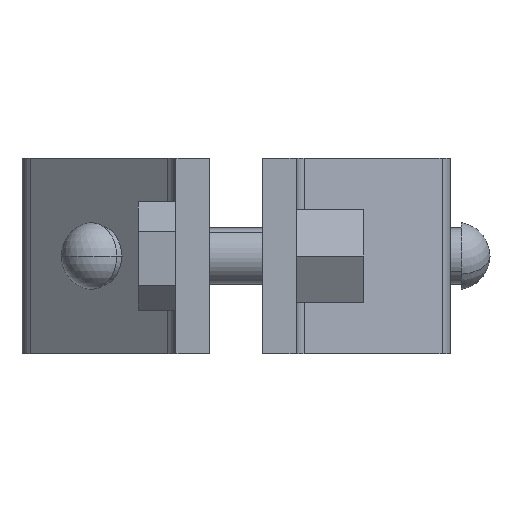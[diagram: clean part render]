
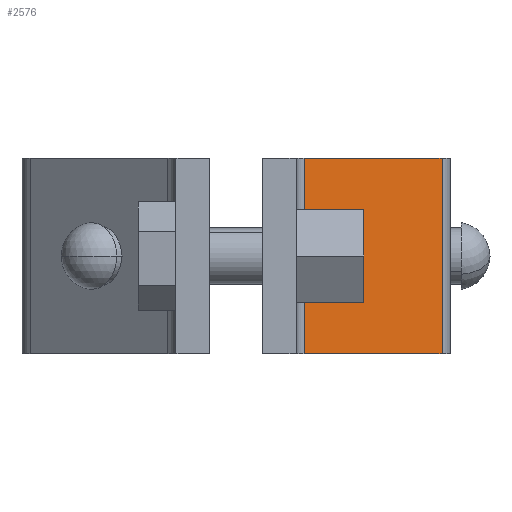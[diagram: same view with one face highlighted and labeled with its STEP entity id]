
A CAD part, left-side view. The second image highlights one B-rep face of the part: STEP entity #2576.
In plain terms, the highlighted planar face has unit normal (-0.751, -0.66, 0) as drawn and (-0.751, 0.66, 0) by its records, which use the part's own axes.
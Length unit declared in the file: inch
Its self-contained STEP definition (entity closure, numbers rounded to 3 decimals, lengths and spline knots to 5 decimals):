
#3 = DIRECTION ( 'NONE',  ( -0.66, -0.751, 0. ) ) ;
#135 = LINE ( 'NONE', #1126, #2861 ) ;
#173 = CARTESIAN_POINT ( 'NONE',  ( 1.34066, 0.94147, 0. ) ) ;
#281 = EDGE_CURVE ( 'NONE', #3123, #935, #3082, .T. ) ;
#306 = CARTESIAN_POINT ( 'NONE',  ( 0.6695, 0.177, -1.024 ) ) ;
#345 = DIRECTION ( 'NONE',  ( 0., 0., 1. ) ) ;
#505 = VECTOR ( 'NONE', #3, 39.37008 ) ;
#557 = CARTESIAN_POINT ( 'NONE',  ( 0.70684, 0.21953, -1.024 ) ) ;
#585 = VERTEX_POINT ( 'NONE', #1910 ) ;
#623 = EDGE_LOOP ( 'NONE', ( #2695, #2888, #2835, #2266 ) ) ;
#665 = DIRECTION ( 'NONE',  ( 0., 0., -1. ) ) ;
#734 = CARTESIAN_POINT ( 'NONE',  ( 0.6695, 0.177, -1.024 ) ) ;
#770 = DIRECTION ( 'NONE',  ( -0.751, 0.66, 0. ) ) ;
#935 = VERTEX_POINT ( 'NONE', #2151 ) ;
#990 = DIRECTION ( 'NONE',  ( -0.66, -0.751, 0. ) ) ;
#1091 = VERTEX_POINT ( 'NONE', #173 ) ;
#1118 = CARTESIAN_POINT ( 'NONE',  ( 0.6695, 0.177, 0. ) ) ;
#1126 = CARTESIAN_POINT ( 'NONE',  ( 1.34066, 0.94147, -1.024 ) ) ;
#1571 = CARTESIAN_POINT ( 'NONE',  ( 0.70684, 0.21953, 0. ) ) ;
#1910 = CARTESIAN_POINT ( 'NONE',  ( 1.34066, 0.94147, -1.024 ) ) ;
#1994 = AXIS2_PLACEMENT_3D ( 'NONE', #734, #770, #990 ) ;
#2151 = CARTESIAN_POINT ( 'NONE',  ( 0.70684, 0.21953, 0. ) ) ;
#2172 = EDGE_CURVE ( 'NONE', #1091, #585, #135, .T. ) ;
#2194 = FACE_OUTER_BOUND ( 'NONE', #623, .T. ) ;
#2205 = EDGE_CURVE ( 'NONE', #1091, #935, #2375, .T. ) ;
#2266 = ORIENTED_EDGE ( 'NONE', *, *, #281, .T. ) ;
#2268 = DIRECTION ( 'NONE',  ( -0.66, -0.751, 0. ) ) ;
#2375 = LINE ( 'NONE', #1118, #505 ) ;
#2467 = PLANE ( 'NONE',  #1994 ) ;
#2576 = ADVANCED_FACE ( 'NONE', ( #2194 ), #2467, .T. ) ;
#2695 = ORIENTED_EDGE ( 'NONE', *, *, #2205, .F. ) ;
#2796 = VECTOR ( 'NONE', #345, 39.37008 ) ;
#2835 = ORIENTED_EDGE ( 'NONE', *, *, #3141, .T. ) ;
#2861 = VECTOR ( 'NONE', #665, 39.37008 ) ;
#2888 = ORIENTED_EDGE ( 'NONE', *, *, #2172, .T. ) ;
#2979 = VECTOR ( 'NONE', #2268, 39.37008 ) ;
#2990 = LINE ( 'NONE', #306, #2979 ) ;
#3082 = LINE ( 'NONE', #1571, #2796 ) ;
#3123 = VERTEX_POINT ( 'NONE', #557 ) ;
#3141 = EDGE_CURVE ( 'NONE', #585, #3123, #2990, .T. ) ;
